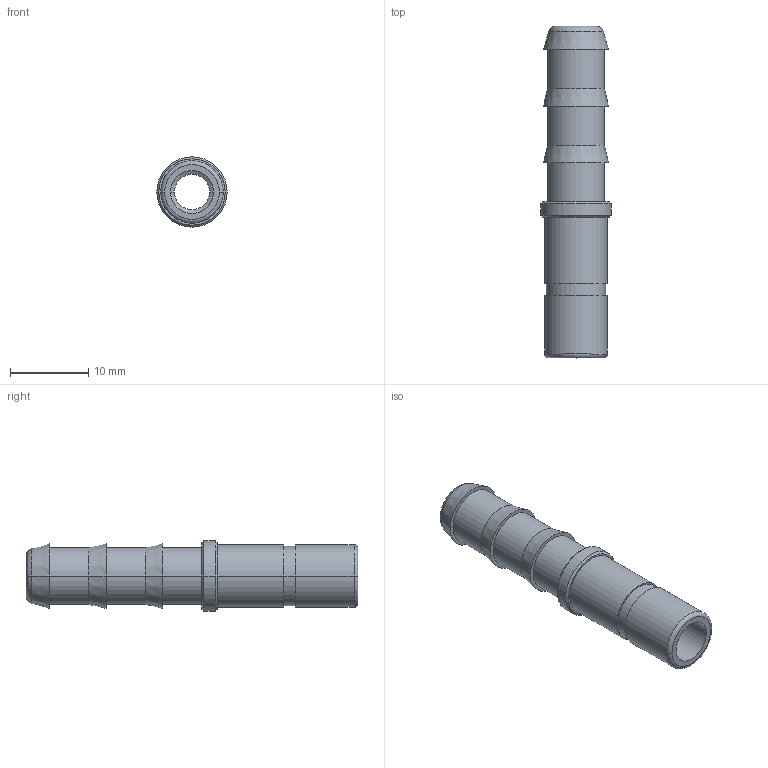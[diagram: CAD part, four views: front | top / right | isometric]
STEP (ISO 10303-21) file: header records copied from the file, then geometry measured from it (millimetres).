
FILE_DESCRIPTION (( 'STEP AP214' ), '1' );
FILE_NAME ('CH0280001WI00.STEP', '2016-05-20T12:31:44', ( '' ), ( '' ), 'SwSTEP 2.0', 'SolidWorks 2016', '' );
FILE_SCHEMA (( 'AUTOMOTIVE_DESIGN' ));
Length unit declared in the file: millimetre
Products named in the file (1): CH0280001WI00
Bounding box: 9 x 42.5 x 9 mm (x, y, z)
Volume: 1175.2 mm3; surface area: 1806.9 mm2
Topology: 1 solids, 1 shells, 43 faces, 86 edges, 52 vertices
Faces by surface type: cylinder 18, cone 12, plane 9, torus 4
Entity records: 1166 total; most frequent: DIRECTION 230, CARTESIAN_POINT 182, ORIENTED_EDGE 172, AXIS2_PLACEMENT_3D 100, EDGE_CURVE 86, CIRCLE 56, VERTEX_POINT 52, EDGE_LOOP 52
